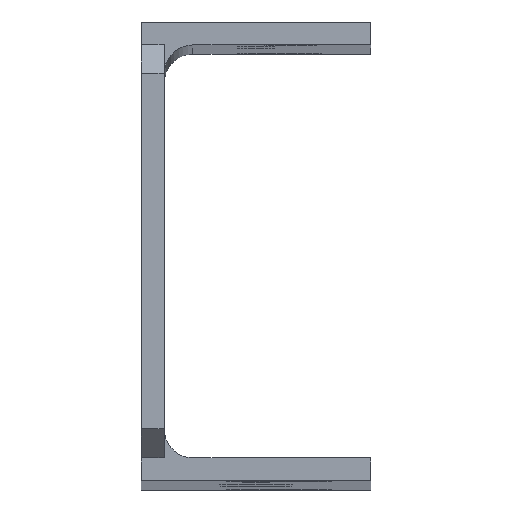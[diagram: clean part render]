
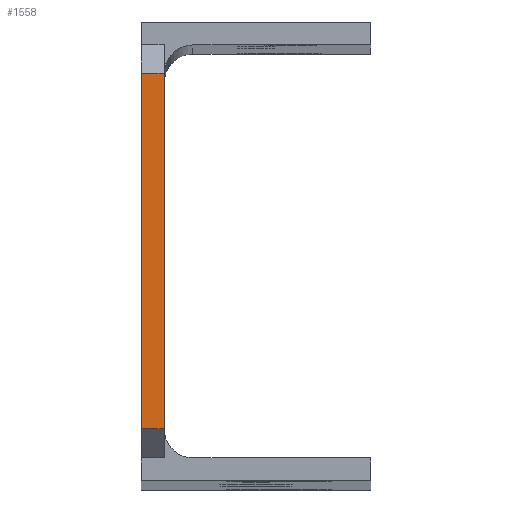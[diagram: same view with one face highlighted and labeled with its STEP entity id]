
A CAD part, top view. The second image highlights one B-rep face of the part: STEP entity #1558.
In plain terms, the highlighted planar face has unit normal (0, 0, 1).
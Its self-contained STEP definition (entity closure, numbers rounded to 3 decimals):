
#6 = LINE ( 'NONE', #1258, #916 ) ;
#85 = DIRECTION ( 'NONE',  ( -1., 0., 0. ) ) ;
#252 = CARTESIAN_POINT ( 'NONE',  ( 4., 0., 992. ) ) ;
#262 = EDGE_CURVE ( 'NONE', #2719, #2917, #2303, .T. ) ;
#290 = AXIS2_PLACEMENT_3D ( 'NONE', #1589, #2783, #2801 ) ;
#322 = LINE ( 'NONE', #2897, #2161 ) ;
#375 = EDGE_CURVE ( 'NONE', #2917, #1517, #1855, .T. ) ;
#916 = VECTOR ( 'NONE', #939, 1000. ) ;
#939 = DIRECTION ( 'NONE',  ( 0., 1., 0. ) ) ;
#1258 = CARTESIAN_POINT ( 'NONE',  ( 0., 0., 992. ) ) ;
#1276 = FACE_OUTER_BOUND ( 'NONE', #3060, .T. ) ;
#1367 = CARTESIAN_POINT ( 'NONE',  ( 0., 71., 992. ) ) ;
#1448 = CARTESIAN_POINT ( 'NONE',  ( 4., 9., 992. ) ) ;
#1517 = VERTEX_POINT ( 'NONE', #2081 ) ;
#1558 = ADVANCED_FACE ( 'NONE', ( #1276 ), #1651, .T. ) ;
#1589 = CARTESIAN_POINT ( 'NONE',  ( 0., 0., 992. ) ) ;
#1605 = VECTOR ( 'NONE', #2521, 1000. ) ;
#1651 = PLANE ( 'NONE',  #290 ) ;
#1806 = ORIENTED_EDGE ( 'NONE', *, *, #262, .T. ) ;
#1855 = LINE ( 'NONE', #1367, #2539 ) ;
#1886 = CARTESIAN_POINT ( 'NONE',  ( 0., 9., 992. ) ) ;
#1986 = ORIENTED_EDGE ( 'NONE', *, *, #3187, .F. ) ;
#2081 = CARTESIAN_POINT ( 'NONE',  ( 0., 71., 992. ) ) ;
#2161 = VECTOR ( 'NONE', #3114, 1000. ) ;
#2245 = ORIENTED_EDGE ( 'NONE', *, *, #2628, .T. ) ;
#2303 = LINE ( 'NONE', #252, #1605 ) ;
#2521 = DIRECTION ( 'NONE',  ( 0., 1., 0. ) ) ;
#2539 = VECTOR ( 'NONE', #85, 1000. ) ;
#2541 = VERTEX_POINT ( 'NONE', #1886 ) ;
#2619 = CARTESIAN_POINT ( 'NONE',  ( 4., 71., 992. ) ) ;
#2628 = EDGE_CURVE ( 'NONE', #2541, #2719, #322, .T. ) ;
#2719 = VERTEX_POINT ( 'NONE', #1448 ) ;
#2783 = DIRECTION ( 'NONE',  ( 0., 0., 1. ) ) ;
#2801 = DIRECTION ( 'NONE',  ( 1., 0., 0. ) ) ;
#2897 = CARTESIAN_POINT ( 'NONE',  ( 4., 9., 992. ) ) ;
#2917 = VERTEX_POINT ( 'NONE', #2619 ) ;
#3060 = EDGE_LOOP ( 'NONE', ( #1986, #2245, #1806, #3241 ) ) ;
#3114 = DIRECTION ( 'NONE',  ( 1., 0., 0. ) ) ;
#3187 = EDGE_CURVE ( 'NONE', #2541, #1517, #6, .T. ) ;
#3241 = ORIENTED_EDGE ( 'NONE', *, *, #375, .T. ) ;
